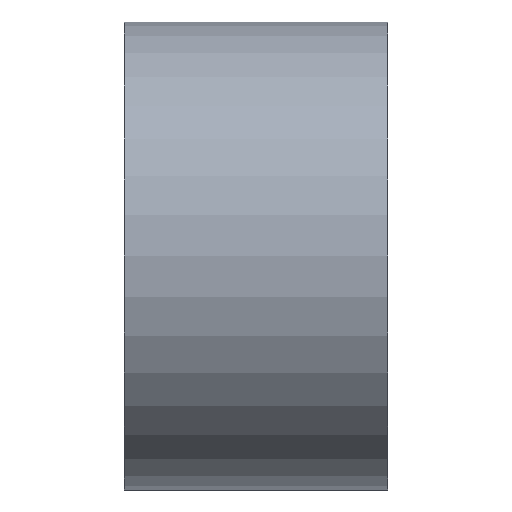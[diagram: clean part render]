
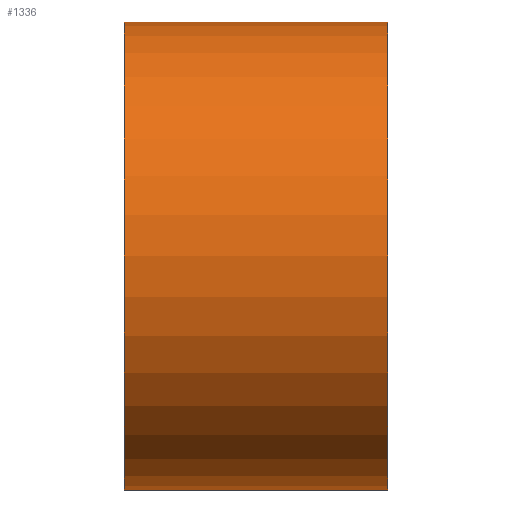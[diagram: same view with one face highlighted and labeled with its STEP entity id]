
A CAD part, left-side view. The second image highlights one B-rep face of the part: STEP entity #1336.
In plain terms, the highlighted cylindrical face has radius 6.65 mm (diameter 13.3 mm), a partial arc.
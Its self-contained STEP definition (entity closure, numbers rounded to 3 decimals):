
#12 = DIRECTION ( 'NONE',  ( 0., -1., 0. ) ) ;
#58 = CARTESIAN_POINT ( 'NONE',  ( -9.1, 10.5, -42.3 ) ) ;
#80 = CARTESIAN_POINT ( 'NONE',  ( -9.1, 10.5, -35.65 ) ) ;
#86 = CARTESIAN_POINT ( 'NONE',  ( -9.1, 10.5, -35.65 ) ) ;
#100 = CARTESIAN_POINT ( 'NONE',  ( -9.1, 3., -29. ) ) ;
#120 = LINE ( 'NONE', #950, #132 ) ;
#132 = VECTOR ( 'NONE', #12, 1000. ) ;
#136 = VERTEX_POINT ( 'NONE', #1343 ) ;
#160 = VERTEX_POINT ( 'NONE', #100 ) ;
#205 = DIRECTION ( 'NONE',  ( 0., 1., 0. ) ) ;
#215 = ORIENTED_EDGE ( 'NONE', *, *, #1117, .T. ) ;
#285 = VERTEX_POINT ( 'NONE', #437 ) ;
#301 = CARTESIAN_POINT ( 'NONE',  ( -9.1, 10.5, -42.3 ) ) ;
#307 = CARTESIAN_POINT ( 'NONE',  ( -9.1, 3., -35.65 ) ) ;
#329 = AXIS2_PLACEMENT_3D ( 'NONE', #307, #205, #517 ) ;
#341 = EDGE_LOOP ( 'NONE', ( #215, #433, #552, #409 ) ) ;
#389 = AXIS2_PLACEMENT_3D ( 'NONE', #86, #711, #1017 ) ;
#409 = ORIENTED_EDGE ( 'NONE', *, *, #572, .T. ) ;
#433 = ORIENTED_EDGE ( 'NONE', *, *, #1234, .F. ) ;
#437 = CARTESIAN_POINT ( 'NONE',  ( -9.1, 10.5, -29. ) ) ;
#517 = DIRECTION ( 'NONE',  ( 0., 0., 1. ) ) ;
#552 = ORIENTED_EDGE ( 'NONE', *, *, #698, .F. ) ;
#572 = EDGE_CURVE ( 'NONE', #1084, #136, #991, .T. ) ;
#603 = CYLINDRICAL_SURFACE ( 'NONE', #1199, 6.65 ) ;
#698 = EDGE_CURVE ( 'NONE', #1084, #285, #953, .T. ) ;
#705 = DIRECTION ( 'NONE',  ( 0., -1., 0. ) ) ;
#711 = DIRECTION ( 'NONE',  ( 0., 1., 0. ) ) ;
#772 = DIRECTION ( 'NONE',  ( 0., 0., -1. ) ) ;
#890 = DIRECTION ( 'NONE',  ( 0., -1., 0. ) ) ;
#950 = CARTESIAN_POINT ( 'NONE',  ( -9.1, 10.5, -29. ) ) ;
#953 = CIRCLE ( 'NONE', #389, 6.65 ) ;
#991 = LINE ( 'NONE', #58, #1166 ) ;
#1005 = FACE_OUTER_BOUND ( 'NONE', #341, .T. ) ;
#1017 = DIRECTION ( 'NONE',  ( 0., 0., 1. ) ) ;
#1084 = VERTEX_POINT ( 'NONE', #301 ) ;
#1117 = EDGE_CURVE ( 'NONE', #136, #160, #1169, .T. ) ;
#1166 = VECTOR ( 'NONE', #890, 1000. ) ;
#1169 = CIRCLE ( 'NONE', #329, 6.65 ) ;
#1199 = AXIS2_PLACEMENT_3D ( 'NONE', #80, #705, #772 ) ;
#1234 = EDGE_CURVE ( 'NONE', #285, #160, #120, .T. ) ;
#1336 = ADVANCED_FACE ( 'NONE', ( #1005 ), #603, .T. ) ;
#1343 = CARTESIAN_POINT ( 'NONE',  ( -9.1, 3., -42.3 ) ) ;
